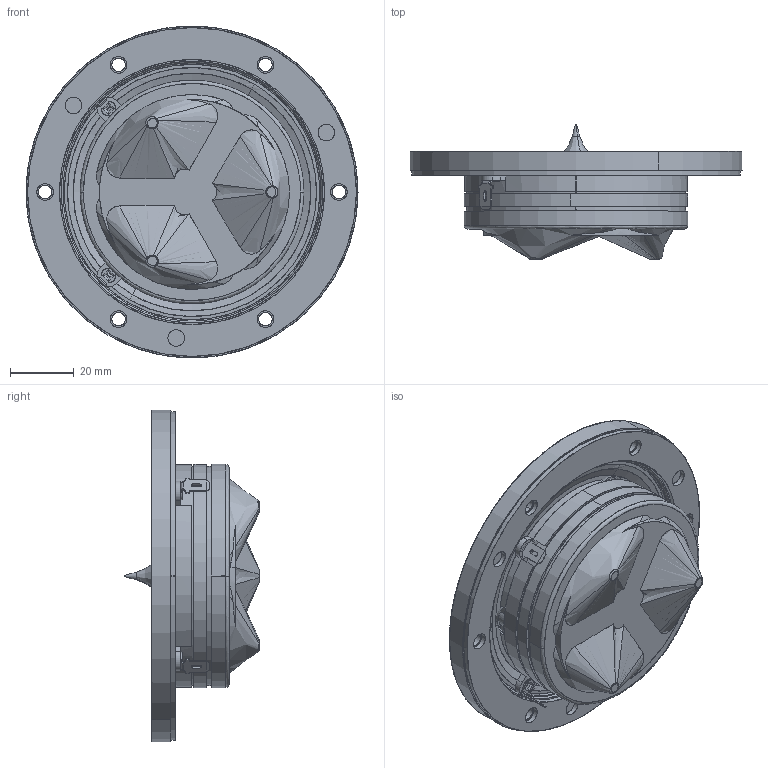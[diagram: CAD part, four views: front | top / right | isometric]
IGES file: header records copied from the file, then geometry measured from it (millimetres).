
Start section: SolidWorks IGES file using analytic representation for surfaces
Global section: file name: W:\TT\R29\R2904-700005.IGS; native system: SolidWorks 2019; preprocessor: SolidWorks 2019; author: mhn; date: 201124.092003; units: millimetre
Bounding box: 104 x 42.21 x 104 mm (x, y, z)
Surface area: 33430.7 mm2 (no closed solid volume)
Topology: 0 solids, 0 shells, 448 faces, 7914 edges, 7904 vertices
Faces by surface type: bspline 242, revolution 206
